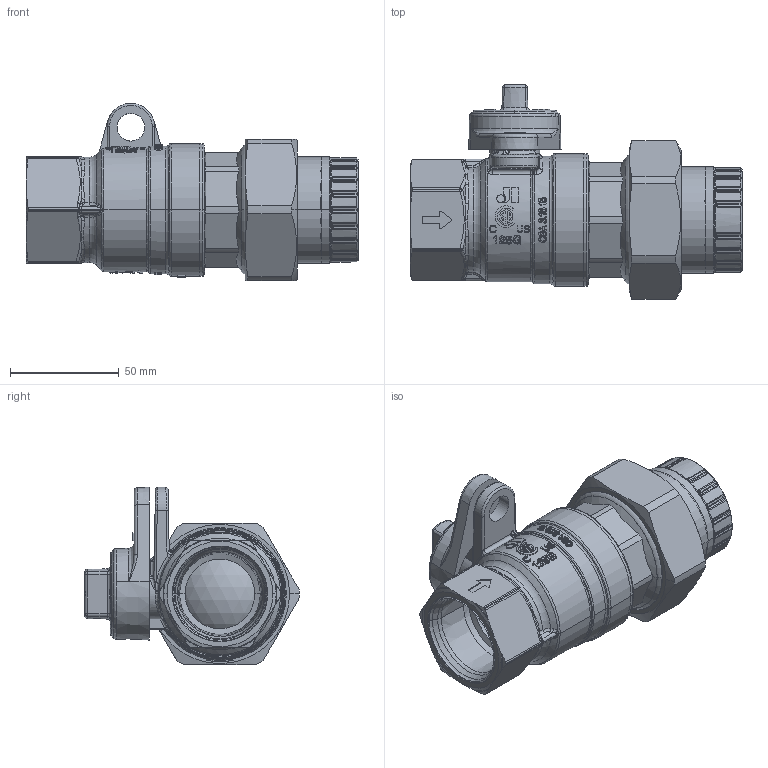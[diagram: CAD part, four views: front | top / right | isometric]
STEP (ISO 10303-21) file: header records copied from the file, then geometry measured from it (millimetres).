
FILE_DESCRIPTION((''),'2;1');
FILE_NAME('175LWD_114_241-006_ASM','2020-09-16T08:25:32',('sergio.dandrea'),(''),'CREO PARAMETRIC BY PTC INC, 2019471','CREO PARAMETRIC BY PTC INC, 2019471','');
FILE_SCHEMA(('CONFIG_CONTROL_DESIGN'));
Length unit declared in the file: millimetre
Products named in the file (16): 93227; SEDE_PTFE_F32; 93133; OR_110_AF0; OR_110_AF1; 87187; 98145; 02056; 93232; 20073; 12152; 12151_RIV_DIEL; OR_1_78X41_AF1; 02057; 12156_ASM; 175LWD_114_241-006_ASM
Assembly tree (16 placements, depth 3):
  175LWD_114_241-006_ASM
    93227
    SEDE_PTFE_F32  x2
    93133
    OR_110_AF0
    OR_110_AF1
    87187
    98145
    02056
    93232
    20073
    12156_ASM
      12152
      12151_RIV_DIEL
      OR_1_78X41_AF1
      02057
Bounding box: 152.6 x 98.7 x 81.48 mm (x, y, z)
Volume: 245178.8 mm3; surface area: 137900.2 mm2
Topology: 15 solids, 24 shells, 2997 faces, 7752 edges, 4870 vertices
Faces by surface type: extrusion 1165, cylinder 488, bspline 469, plane 421, cone 197, torus 182, sphere 51, revolution 24
Entity records: 125840 total; most frequent: CARTESIAN_POINT 60480, ORIENTED_EDGE 15406, DIRECTION 9747, EDGE_CURVE 7722, VERTEX_POINT 4854, B_SPLINE_CURVE_WITH_KNOTS 4800, VECTOR 3575, EDGE_LOOP 3100
